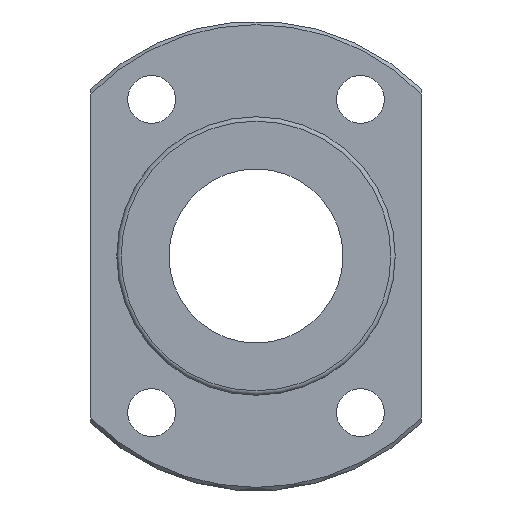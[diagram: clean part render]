
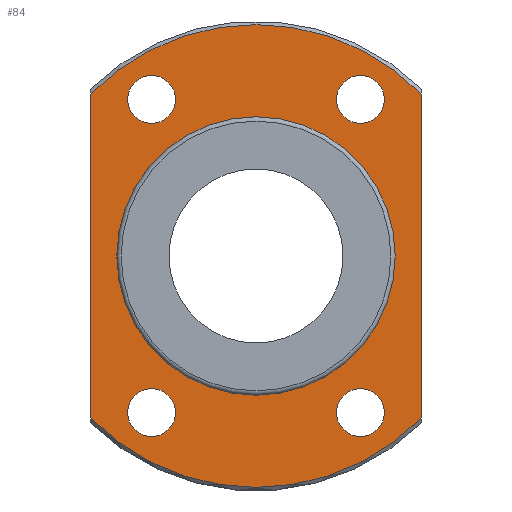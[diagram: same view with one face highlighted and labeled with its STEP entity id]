
A CAD part, left-side view. The second image highlights one B-rep face of the part: STEP entity #84.
In plain terms, the highlighted planar face has unit normal (-1, 0, 0).
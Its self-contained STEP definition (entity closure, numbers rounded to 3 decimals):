
#84=ADVANCED_FACE('',(#133,#134,#135,#136,#137,#138),#139,.T.);
#133=FACE_BOUND('',#232,.T.);
#134=FACE_BOUND('',#233,.T.);
#135=FACE_BOUND('',#234,.T.);
#136=FACE_BOUND('',#235,.T.);
#137=FACE_BOUND('',#236,.T.);
#138=FACE_OUTER_BOUND('',#237,.T.);
#139=PLANE('',#238);
#232=EDGE_LOOP('',(#362));
#233=EDGE_LOOP('',(#363));
#234=EDGE_LOOP('',(#364));
#235=EDGE_LOOP('',(#365));
#236=EDGE_LOOP('',(#366));
#237=EDGE_LOOP('',(#367,#368,#369,#370));
#238=AXIS2_PLACEMENT_3D('',#371,#372,#373);
#362=ORIENTED_EDGE('',*,*,#533,.F.);
#363=ORIENTED_EDGE('',*,*,#534,.F.);
#364=ORIENTED_EDGE('',*,*,#535,.F.);
#365=ORIENTED_EDGE('',*,*,#536,.F.);
#366=ORIENTED_EDGE('',*,*,#532,.T.);
#367=ORIENTED_EDGE('',*,*,#520,.F.);
#368=ORIENTED_EDGE('',*,*,#537,.T.);
#369=ORIENTED_EDGE('',*,*,#538,.F.);
#370=ORIENTED_EDGE('',*,*,#514,.T.);
#371=CARTESIAN_POINT('',(-8.0,21.05,0.0));
#372=DIRECTION('',(-1.0,0.,0.));
#373=DIRECTION('',(0.,0.0,1.0));
#514=EDGE_CURVE('',#571,#569,#572,.T.);
#520=EDGE_CURVE('',#580,#569,#582,.T.);
#532=EDGE_CURVE('',#604,#604,#605,.T.);
#533=EDGE_CURVE('',#606,#606,#607,.T.);
#534=EDGE_CURVE('',#608,#608,#609,.T.);
#535=EDGE_CURVE('',#610,#610,#611,.T.);
#536=EDGE_CURVE('',#612,#612,#613,.T.);
#537=EDGE_CURVE('',#580,#614,#615,.T.);
#538=EDGE_CURVE('',#571,#614,#616,.T.);
#569=VERTEX_POINT('',#670);
#571=VERTEX_POINT('',#675);
#572=LINE('',#676,#677);
#580=VERTEX_POINT('',#692);
#582=CIRCLE('',#697,26.6);
#604=VERTEX_POINT('',#720);
#605=CIRCLE('',#721,15.5);
#606=VERTEX_POINT('',#722);
#607=CIRCLE('',#723,2.75);
#608=VERTEX_POINT('',#724);
#609=CIRCLE('',#725,2.75);
#610=VERTEX_POINT('',#726);
#611=CIRCLE('',#727,2.75);
#612=VERTEX_POINT('',#728);
#613=CIRCLE('',#729,2.75);
#614=VERTEX_POINT('',#730);
#615=LINE('',#731,#732);
#616=CIRCLE('',#733,26.6);
#670=CARTESIAN_POINT('',(-8.0,19.0,-18.616));
#675=CARTESIAN_POINT('',(-8.0,19.0,18.616));
#676=CARTESIAN_POINT('',(-8.0,19.0,0.0));
#677=VECTOR('',#788,1.0);
#692=CARTESIAN_POINT('',(-8.0,-19.0,-18.616));
#697=AXIS2_PLACEMENT_3D('',#793,#794,#795);
#720=CARTESIAN_POINT('',(-8.0,15.5,0.0));
#721=AXIS2_PLACEMENT_3D('',#827,#828,#829);
#722=CARTESIAN_POINT('',(-8.0,-12.0,-15.25));
#723=AXIS2_PLACEMENT_3D('',#830,#831,#832);
#724=CARTESIAN_POINT('',(-8.0,12.0,-15.25));
#725=AXIS2_PLACEMENT_3D('',#833,#834,#835);
#726=CARTESIAN_POINT('',(-8.0,12.0,20.75));
#727=AXIS2_PLACEMENT_3D('',#836,#837,#838);
#728=CARTESIAN_POINT('',(-8.0,-12.0,20.75));
#729=AXIS2_PLACEMENT_3D('',#839,#840,#841);
#730=CARTESIAN_POINT('',(-8.0,-19.0,18.616));
#731=CARTESIAN_POINT('',(-8.0,-19.0,0.0));
#732=VECTOR('',#842,1.0);
#733=AXIS2_PLACEMENT_3D('',#843,#844,#845);
#788=DIRECTION('',(0.,0.0,-1.0));
#793=CARTESIAN_POINT('',(-8.0,0.0,0.0));
#794=DIRECTION('',(1.0,0.0,0.));
#795=DIRECTION('',(0.0,1.0,0.0));
#827=CARTESIAN_POINT('',(-8.0,0.0,0.0));
#828=DIRECTION('',(1.0,0.0,0.));
#829=DIRECTION('',(0.0,1.0,0.0));
#830=CARTESIAN_POINT('',(-8.0,-12.0,-18.0));
#831=DIRECTION('',(-1.0,0.,0.));
#832=DIRECTION('',(0.,0.0,1.0));
#833=CARTESIAN_POINT('',(-8.0,12.0,-18.0));
#834=DIRECTION('',(-1.0,0.,0.));
#835=DIRECTION('',(0.,0.0,1.0));
#836=CARTESIAN_POINT('',(-8.0,12.0,18.0));
#837=DIRECTION('',(-1.0,0.,0.));
#838=DIRECTION('',(0.,0.0,1.0));
#839=CARTESIAN_POINT('',(-8.0,-12.0,18.0));
#840=DIRECTION('',(-1.0,0.,0.));
#841=DIRECTION('',(0.,0.0,1.0));
#842=DIRECTION('',(0.,0.0,1.0));
#843=CARTESIAN_POINT('',(-8.0,0.0,0.0));
#844=DIRECTION('',(1.0,0.0,0.));
#845=DIRECTION('',(0.0,1.0,0.0));
